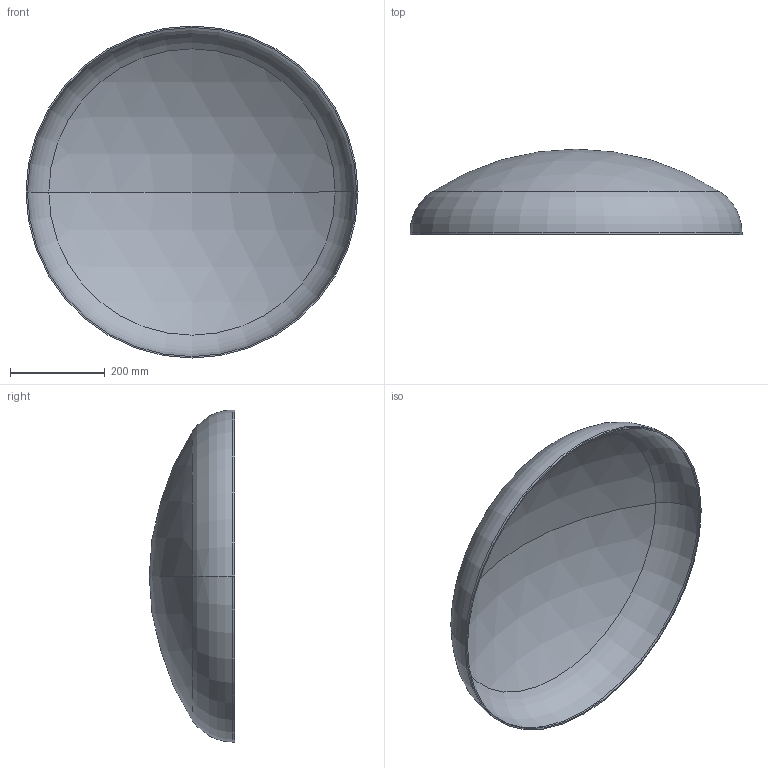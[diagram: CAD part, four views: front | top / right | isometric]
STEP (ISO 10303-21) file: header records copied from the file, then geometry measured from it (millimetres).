
FILE_DESCRIPTION (( 'STEP AP203' ), '1' );
FILE_NAME ('3D_R365_700x3_173374600.STEP', '2024-07-16T07:32:54', ( '' ), ( '' ), 'SwSTEP 2.0', 'SolidWorks 2024', '' );
FILE_SCHEMA (( 'CONFIG_CONTROL_DESIGN' ));
Length unit declared in the file: millimetre
Products named in the file (1): 3D_R365_700x3_173374600
Bounding box: 700 x 180 x 700 mm (x, y, z)
Volume: 1596118.9 mm3; surface area: 1070666.7 mm2
Topology: 1 solids, 1 shells, 13 faces, 24 edges, 14 vertices
Faces by surface type: sphere 4, torus 4, cylinder 4, plane 1
Entity records: 407 total; most frequent: DIRECTION 72, CARTESIAN_POINT 52, ORIENTED_EDGE 48, AXIS2_PLACEMENT_3D 34, EDGE_CURVE 24, CIRCLE 20, EDGE_LOOP 14, VERTEX_POINT 14
